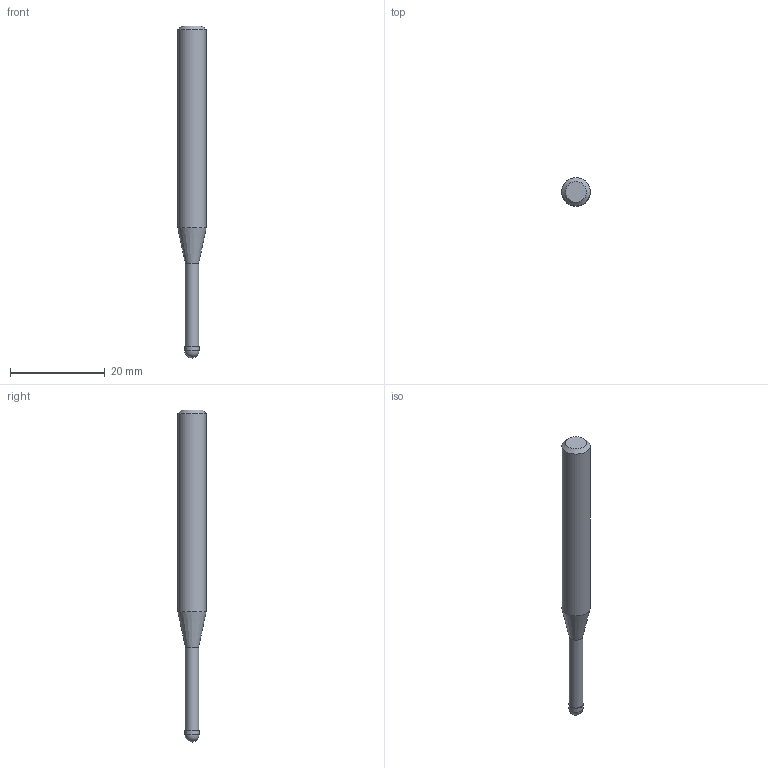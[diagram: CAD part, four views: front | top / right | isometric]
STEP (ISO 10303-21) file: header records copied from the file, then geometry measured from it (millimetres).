
FILE_DESCRIPTION((''),'2;1');
FILE_NAME('C:\Users\nsx150\AppData\Local\Temp\Mastercam 2021\ZXBT0ST9RL\TEMP.step','2021-06-25T11:03:21',(''),(''),'STEP Write','Mastercam 2021 ... CNC Software, Inc.','');
FILE_SCHEMA(('AUTOMOTIVE_DESIGN'));
Length unit declared in the file: millimetre
Products named in the file (1): None
Bounding box: 6 x 6 x 70 mm (x, y, z)
Volume: 1443.3 mm3; surface area: 1120.4 mm2
Topology: 2 solids, 2 shells, 9 faces, 14 edges, 8 vertices
Faces by surface type: plane 3, cylinder 3, cone 2, sphere 1
Full cylindrical faces by diameter (mm): 2.85 x1, 3 x1, 6 x1
Entity records: 211 total; most frequent: DIRECTION 36, CARTESIAN_POINT 25, AXIS2_PLACEMENT_3D 18, ORIENTED_EDGE 14, EDGE_LOOP 14, STYLED_ITEM 12, ADVANCED_FACE 9, FACE_BOUND 8
